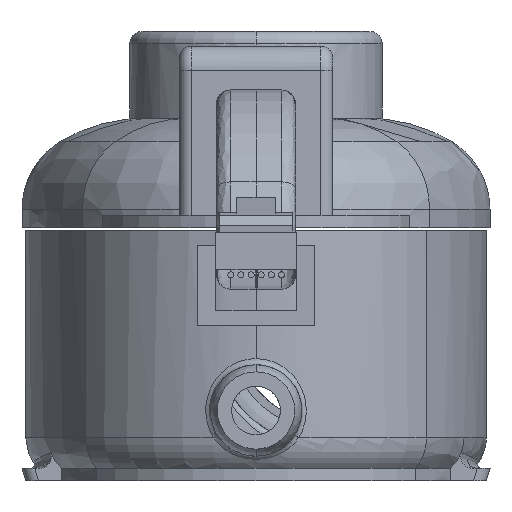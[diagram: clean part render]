
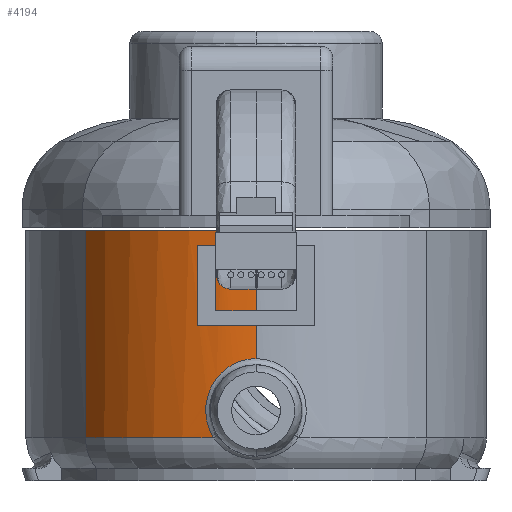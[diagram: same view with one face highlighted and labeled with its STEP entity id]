
A CAD part, left-side view. The second image highlights one B-rep face of the part: STEP entity #4194.
In plain terms, the highlighted cylindrical face has radius 16.25 mm (diameter 32.5 mm), a partial arc.
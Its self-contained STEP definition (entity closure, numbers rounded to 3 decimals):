
#129 = EDGE_CURVE ( 'NONE', #4273, #1103, #1619, .T. ) ;
#453 = CARTESIAN_POINT ( 'NONE',  ( -27.131, 3.446, 8.113 ) ) ;
#459 = ORIENTED_EDGE ( 'NONE', *, *, #16670, .F. ) ;
#554 = CARTESIAN_POINT ( 'NONE',  ( -27.5, 0., 20.5 ) ) ;
#718 = CARTESIAN_POINT ( 'NONE',  ( -27.382, 1.964, 9.492 ) ) ;
#741 = CARTESIAN_POINT ( 'NONE',  ( -27.5, 0., 20.5 ) ) ;
#799 = CARTESIAN_POINT ( 'NONE',  ( -27.054, 3.783, 7.449 ) ) ;
#1051 = CARTESIAN_POINT ( 'NONE',  ( -27.5, 0.375, 10. ) ) ;
#1103 = VERTEX_POINT ( 'NONE', #5474 ) ;
#1151 = AXIS2_PLACEMENT_3D ( 'NONE', #3223, #7754, #3992 ) ;
#1619 = LINE ( 'NONE', #16290, #10930 ) ;
#1746 = CARTESIAN_POINT ( 'NONE',  ( -26.987, 4.053, 4.883 ) ) ;
#2015 = CARTESIAN_POINT ( 'NONE',  ( -26.969, 4.12, 5.999 ) ) ;
#2097 = CARTESIAN_POINT ( 'NONE',  ( -26.976, 4.092, 6.278 ) ) ;
#2528 = CARTESIAN_POINT ( 'NONE',  ( -27.5, 0., 10. ) ) ;
#3223 = CARTESIAN_POINT ( 'NONE',  ( -11.25, 0., 20.5 ) ) ;
#3284 = CARTESIAN_POINT ( 'NONE',  ( -27.272, 2.717, 8.953 ) ) ;
#3892 = CARTESIAN_POINT ( 'NONE',  ( -11.25, 0., 3.5 ) ) ;
#3992 = DIRECTION ( 'NONE',  ( -1., 0., 0. ) ) ;
#4194 = ADVANCED_FACE ( 'NONE', ( #5304 ), #10181, .T. ) ;
#4213 = CARTESIAN_POINT ( 'NONE',  ( -27.119, 3.498, 3.5 ) ) ;
#4273 = VERTEX_POINT ( 'NONE', #5211 ) ;
#4670 = CARTESIAN_POINT ( 'NONE',  ( -27.401, 1.799, 9.579 ) ) ;
#5163 = EDGE_CURVE ( 'NONE', #4273, #11317, #12907, .T. ) ;
#5211 = CARTESIAN_POINT ( 'NONE',  ( -19.53, 13.982, 20.5 ) ) ;
#5242 = AXIS2_PLACEMENT_3D ( 'NONE', #3892, #9222, #15804 ) ;
#5304 = FACE_OUTER_BOUND ( 'NONE', #9968, .T. ) ;
#5444 = B_SPLINE_CURVE_WITH_KNOTS ( 'NONE', 3,
 ( #14942, #13667, #5888, #1746, #8442, #7148, #2015, #2097, #6988, #12403, #5975, #7327, #13757, #799, #16330, #453, #15033, #10940, #3284, #7247, #12493, #718, #4670, #15118, #12664, #12906, #1051, #2528 ),
 .UNSPECIFIED., .F., .F.,
 ( 4, 2, 2, 2, 2, 2, 2, 2, 2, 2, 2, 2, 2, 4 ),
 ( 0., 0.125, 0.25, 0.313, 0.344, 0.375, 0.438, 0.5, 0.625, 0.688, 0.75, 0.813, 0.875, 1. ),
 .UNSPECIFIED. ) ;
#5474 = CARTESIAN_POINT ( 'NONE',  ( -19.53, 13.982, 3.5 ) ) ;
#5592 = EDGE_CURVE ( 'NONE', #1103, #9431, #6613, .T. ) ;
#5888 = CARTESIAN_POINT ( 'NONE',  ( -27.04, 3.842, 4.163 ) ) ;
#5975 = CARTESIAN_POINT ( 'NONE',  ( -26.992, 4.031, 6.647 ) ) ;
#6130 = ORIENTED_EDGE ( 'NONE', *, *, #129, .T. ) ;
#6239 = VERTEX_POINT ( 'NONE', #14090 ) ;
#6613 = CIRCLE ( 'NONE', #5242, 16.25 ) ;
#6988 = CARTESIAN_POINT ( 'NONE',  ( -26.979, 4.08, 6.37 ) ) ;
#7148 = CARTESIAN_POINT ( 'NONE',  ( -26.967, 4.127, 5.813 ) ) ;
#7247 = CARTESIAN_POINT ( 'NONE',  ( -27.318, 2.432, 9.188 ) ) ;
#7327 = CARTESIAN_POINT ( 'NONE',  ( -27.008, 3.968, 6.918 ) ) ;
#7754 = DIRECTION ( 'NONE',  ( 0., 0., 1. ) ) ;
#8442 = CARTESIAN_POINT ( 'NONE',  ( -26.971, 4.111, 5.25 ) ) ;
#8817 = AXIS2_PLACEMENT_3D ( 'NONE', #15484, #12849, #13183 ) ;
#8844 = VECTOR ( 'NONE', #14873, 1000. ) ;
#8861 = ORIENTED_EDGE ( 'NONE', *, *, #14072, .T. ) ;
#8892 = ORIENTED_EDGE ( 'NONE', *, *, #5592, .T. ) ;
#9222 = DIRECTION ( 'NONE',  ( 0., 0., 1. ) ) ;
#9431 = VERTEX_POINT ( 'NONE', #4213 ) ;
#9968 = EDGE_LOOP ( 'NONE', ( #459, #11993, #6130, #8892, #8861 ) ) ;
#10181 = CYLINDRICAL_SURFACE ( 'NONE', #8817, 16.25 ) ;
#10930 = VECTOR ( 'NONE', #14899, 1000. ) ;
#10940 = CARTESIAN_POINT ( 'NONE',  ( -27.248, 2.852, 8.826 ) ) ;
#11317 = VERTEX_POINT ( 'NONE', #741 ) ;
#11993 = ORIENTED_EDGE ( 'NONE', *, *, #5163, .F. ) ;
#12403 = CARTESIAN_POINT ( 'NONE',  ( -26.987, 4.05, 6.554 ) ) ;
#12493 = CARTESIAN_POINT ( 'NONE',  ( -27.34, 2.283, 9.294 ) ) ;
#12664 = CARTESIAN_POINT ( 'NONE',  ( -27.45, 1.287, 9.792 ) ) ;
#12849 = DIRECTION ( 'NONE',  ( 0., 0., -1. ) ) ;
#12906 = CARTESIAN_POINT ( 'NONE',  ( -27.487, 0.744, 9.948 ) ) ;
#12907 = CIRCLE ( 'NONE', #1151, 16.25 ) ;
#13183 = DIRECTION ( 'NONE',  ( -1., 0., 0. ) ) ;
#13667 = CARTESIAN_POINT ( 'NONE',  ( -27.076, 3.692, 3.821 ) ) ;
#13757 = CARTESIAN_POINT ( 'NONE',  ( -27.022, 3.915, 7.097 ) ) ;
#13858 = LINE ( 'NONE', #554, #8844 ) ;
#14072 = EDGE_CURVE ( 'NONE', #9431, #6239, #5444, .T. ) ;
#14090 = CARTESIAN_POINT ( 'NONE',  ( -27.5, 0., 10. ) ) ;
#14873 = DIRECTION ( 'NONE',  ( 0., 0., -1. ) ) ;
#14899 = DIRECTION ( 'NONE',  ( 0., 0., -1. ) ) ;
#14942 = CARTESIAN_POINT ( 'NONE',  ( -27.119, 3.498, 3.5 ) ) ;
#15033 = CARTESIAN_POINT ( 'NONE',  ( -27.177, 3.233, 8.414 ) ) ;
#15118 = CARTESIAN_POINT ( 'NONE',  ( -27.435, 1.46, 9.729 ) ) ;
#15484 = CARTESIAN_POINT ( 'NONE',  ( -11.25, 0., 20.5 ) ) ;
#15804 = DIRECTION ( 'NONE',  ( 1., 0., 0. ) ) ;
#16290 = CARTESIAN_POINT ( 'NONE',  ( -19.53, 13.982, 20.5 ) ) ;
#16330 = CARTESIAN_POINT ( 'NONE',  ( -27.071, 3.708, 7.617 ) ) ;
#16670 = EDGE_CURVE ( 'NONE', #11317, #6239, #13858, .T. ) ;
